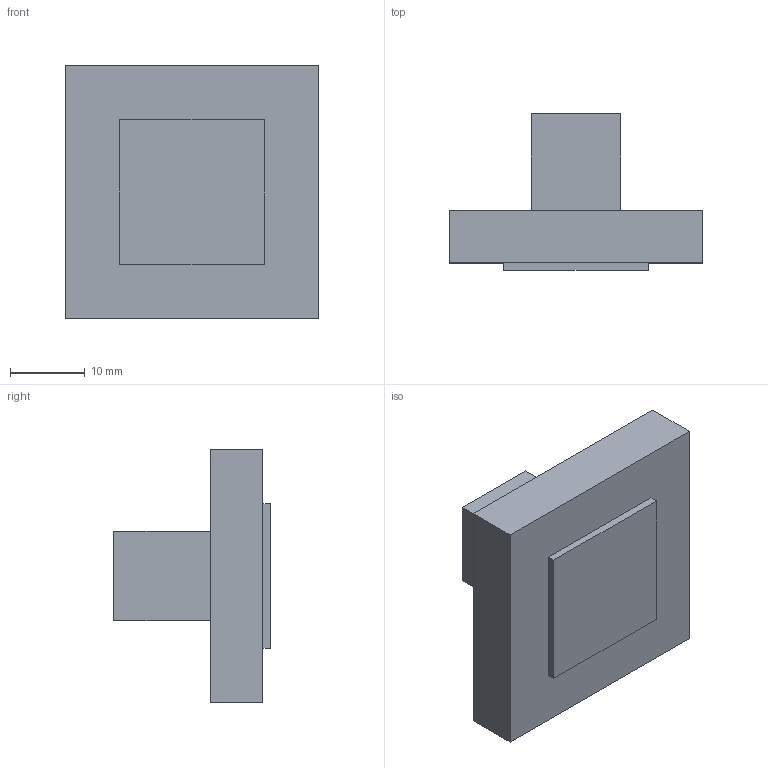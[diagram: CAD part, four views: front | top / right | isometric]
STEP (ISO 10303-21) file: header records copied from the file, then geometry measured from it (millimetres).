
FILE_DESCRIPTION( ( '' ), '1' );
FILE_NAME( 'C:/Documents and Settings/Nikhil/Desktop/Nik/Done/115158.stp', '2013-10-24T05:04:21', ( '' ), ( '' ), ' ', ' ', ' ' );
FILE_SCHEMA( ( 'automotive_design' ) );
Length unit declared in the file: millimetre
Products named in the file (1): 1
Bounding box: 34 x 21 x 34 mm (x, y, z)
Volume: 10240.9 mm3; surface area: 4066.2 mm2
Topology: 1 solids, 1 shells, 19 faces, 42 edges, 28 vertices
Faces by surface type: plane 17, cylinder 2
Entity records: 1046 total; most frequent: STYLED_ITEM 90, PRESENTATION_STYLE_ASSIGNMENT 90, CARTESIAN_POINT 90, COLOUR_RGB 90, DIRECTION 86, ORIENTED_EDGE 84, EDGE_CURVE 42, CURVE_STYLE 42
